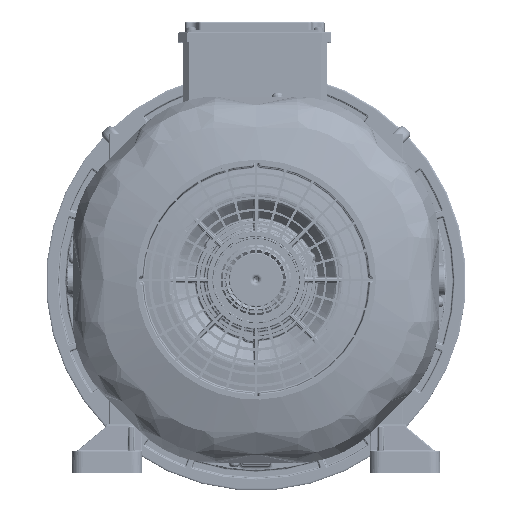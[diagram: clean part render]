
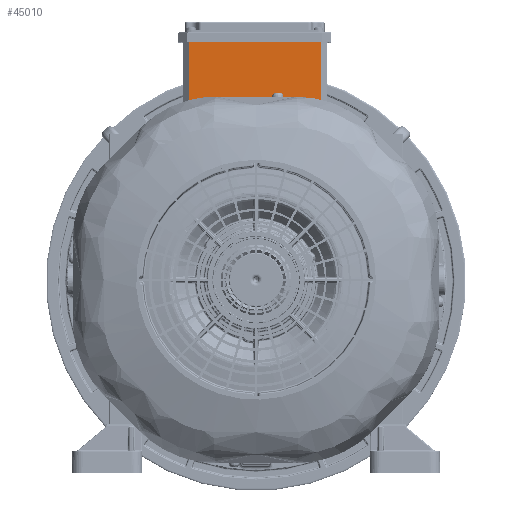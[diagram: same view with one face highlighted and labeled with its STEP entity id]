
A CAD part, top view. The second image highlights one B-rep face of the part: STEP entity #45010.
In plain terms, the highlighted planar face has unit normal (0, 0, 1).
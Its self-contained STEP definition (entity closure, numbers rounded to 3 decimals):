
#31210=PLANE('',#288012);
#45010=ADVANCED_FACE('',(#62476),#31210,.T.);
#62476=FACE_OUTER_BOUND('',#80381,.T.);
#80381=EDGE_LOOP('',(#155121,#155122,#155123,#155124));
#155121=ORIENTED_EDGE('',*,*,#227113,.T.);
#155122=ORIENTED_EDGE('',*,*,#227115,.T.);
#155123=ORIENTED_EDGE('',*,*,#227116,.F.);
#155124=ORIENTED_EDGE('',*,*,#227117,.F.);
#193061=VERTEX_POINT('',#523668);
#193062=VERTEX_POINT('',#523670);
#193063=VERTEX_POINT('',#523674);
#193064=VERTEX_POINT('',#523676);
#227113=EDGE_CURVE('',#193062,#193061,#247974,.T.);
#227115=EDGE_CURVE('',#193061,#193063,#247976,.T.);
#227116=EDGE_CURVE('',#193064,#193063,#247977,.T.);
#227117=EDGE_CURVE('',#193062,#193064,#247978,.T.);
#247974=LINE('',#523669,#261962);
#247976=LINE('',#523673,#261964);
#247977=LINE('',#523675,#261965);
#247978=LINE('',#523677,#261966);
#261962=VECTOR('',#350299,1.);
#261964=VECTOR('',#350303,1.);
#261965=VECTOR('',#350304,1.);
#261966=VECTOR('',#350305,1.);
#288012=AXIS2_PLACEMENT_3D('',#523678,#350306,#350307);
#350299=DIRECTION('',(0.,1.,0.));
#350303=DIRECTION('',(-1.,0.,0.));
#350304=DIRECTION('',(0.,1.,0.));
#350305=DIRECTION('',(-1.,0.,0.));
#350306=DIRECTION('',(0.,0.,1.));
#350307=DIRECTION('',(1.,0.,0.));
#523668=CARTESIAN_POINT('',(54.002,198.,128.498));
#523669=CARTESIAN_POINT('',(54.002,142.,128.498));
#523670=CARTESIAN_POINT('',(54.002,140.,128.498));
#523673=CARTESIAN_POINT('',(54.002,198.,128.498));
#523674=CARTESIAN_POINT('',(-55.998,198.,128.498));
#523675=CARTESIAN_POINT('',(-55.998,142.,128.498));
#523676=CARTESIAN_POINT('',(-55.998,140.,128.498));
#523677=CARTESIAN_POINT('',(54.002,140.,128.498));
#523678=CARTESIAN_POINT('',(-55.998,142.,128.498));
